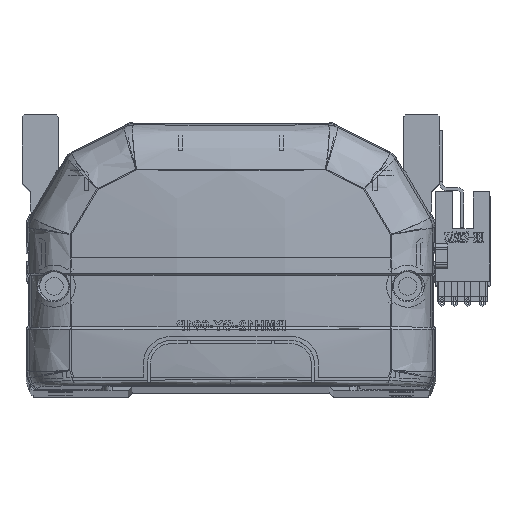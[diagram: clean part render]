
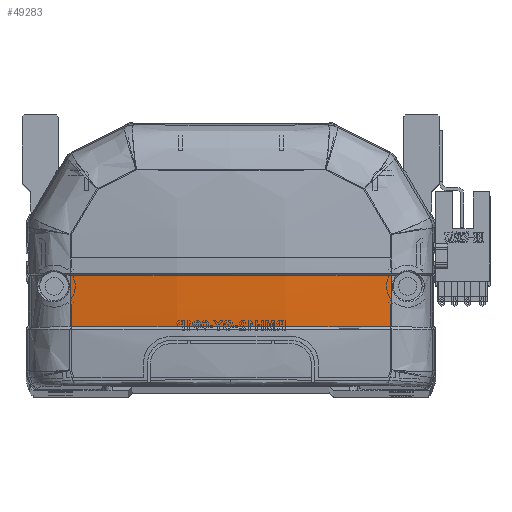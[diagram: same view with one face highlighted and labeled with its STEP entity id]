
A CAD part, top view. The second image highlights one B-rep face of the part: STEP entity #49283.
In plain terms, the highlighted free-form (B-spline) face has degree [3, 3] with [4, 4] control points.
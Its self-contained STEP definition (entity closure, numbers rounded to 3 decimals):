
#3570 = ORIENTED_EDGE ( 'NONE', *, *, #50751, .F. ) ;
#4159 = VERTEX_POINT ( 'NONE', #58372 ) ;
#4699 = CARTESIAN_POINT ( 'NONE',  ( -39.985, 15.83, -5.879 ) ) ;
#5207 = CARTESIAN_POINT ( 'NONE',  ( -13.598, 24.342, -10.47 ) ) ;
#5611 = VERTEX_POINT ( 'NONE', #25838 ) ;
#5679 = CARTESIAN_POINT ( 'NONE',  ( -39.973, 20.118, -6.142 ) ) ;
#7119 = ORIENTED_EDGE ( 'NONE', *, *, #57024, .F. ) ;
#7914 = EDGE_CURVE ( 'NONE', #58150, #5611, #53765, .T. ) ;
#8964 = CARTESIAN_POINT ( 'NONE',  ( -36.679, 15.83, -6.395 ) ) ;
#9720 = CARTESIAN_POINT ( 'NONE',  ( 40.461, 28.832, -6.296 ) ) ;
#11018 = CARTESIAN_POINT ( 'NONE',  ( -13.373, 28.707, -9.468 ) ) ;
#13789 = CARTESIAN_POINT ( 'NONE',  ( 39.985, 15.83, -5.879 ) ) ;
#14441 = CARTESIAN_POINT ( 'NONE',  ( 13.598, 15.499, -10.032 ) ) ;
#14844 = CARTESIAN_POINT ( 'NONE',  ( -13.598, 15.499, -10.032 ) ) ;
#15052 = CARTESIAN_POINT ( 'NONE',  ( 40.461, 20.111, -6.066 ) ) ;
#15451 = FACE_OUTER_BOUND ( 'NONE', #46275, .T. ) ;
#15937 = CARTESIAN_POINT ( 'NONE',  ( 26.749, 28.706, -8.432 ) ) ;
#18037 = CARTESIAN_POINT ( 'NONE',  ( -33.365, 15.83, -6.848 ) ) ;
#18742 = CARTESIAN_POINT ( 'NONE',  ( 39.973, 20.12, -6.142 ) ) ;
#19174 = CARTESIAN_POINT ( 'NONE',  ( 13.598, 28.769, -10.535 ) ) ;
#19784 = CARTESIAN_POINT ( 'NONE',  ( -40.461, 24.47, -6.231 ) ) ;
#20160 = CARTESIAN_POINT ( 'NONE',  ( 39.966, 24.413, -6.306 ) ) ;
#23913 = CARTESIAN_POINT ( 'NONE',  ( 39.963, 28.706, -6.372 ) ) ;
#23945 = CARTESIAN_POINT ( 'NONE',  ( -13.598, 19.918, -10.302 ) ) ;
#24003 = CARTESIAN_POINT ( 'NONE',  ( -39.963, 28.706, -6.372 ) ) ;
#24535 = CARTESIAN_POINT ( 'NONE',  ( -13.598, 28.769, -10.535 ) ) ;
#25225 = CARTESIAN_POINT ( 'NONE',  ( 39.963, 28.706, -6.372 ) ) ;
#25461 = ORIENTED_EDGE ( 'NONE', *, *, #35635, .T. ) ;
#25838 = CARTESIAN_POINT ( 'NONE',  ( 39.963, 28.706, -6.372 ) ) ;
#27280 = B_SPLINE_CURVE_WITH_KNOTS ( 'NONE', 3,
 ( #24003, #42825, #5679, #28890 ),
 .UNSPECIFIED., .F., .F.,
 ( 4, 4 ),
 ( 0., 1. ),
 .UNSPECIFIED. ) ;
#27310 = CARTESIAN_POINT ( 'NONE',  ( -13.384, 15.83, -8.724 ) ) ;
#28890 = CARTESIAN_POINT ( 'NONE',  ( -39.985, 15.83, -5.879 ) ) ;
#32022 = CARTESIAN_POINT ( 'NONE',  ( -6.692, 15.83, -8.984 ) ) ;
#32821 = CARTESIAN_POINT ( 'NONE',  ( -23.389, 15.83, -7.947 ) ) ;
#33572 =( BOUNDED_SURFACE ( )  B_SPLINE_SURFACE ( 3, 3, ( 
 ( #42555, #15052, #42980, #9720 ),
 ( #14441, #52054, #47286, #19174 ),
 ( #14844, #23945, #5207, #24535 ),
 ( #52667, #56779, #19784, #38083 ) ),
 .UNSPECIFIED., .F., .F., .T. ) 
 B_SPLINE_SURFACE_WITH_KNOTS ( ( 4, 4 ),
 ( 4, 4 ),
 ( 0., 1. ),
 ( 0., 1. ),
 .UNSPECIFIED. ) 
 GEOMETRIC_REPRESENTATION_ITEM ( )  RATIONAL_B_SPLINE_SURFACE ( (
 ( 1., 1., 1., 1.),
 ( 0.992, 0.992, 0.992, 0.992),
 ( 0.992, 0.992, 0.992, 0.992),
 ( 1., 1., 1., 1.) ) ) 
 REPRESENTATION_ITEM ( '' )  SURFACE ( )  );
#34662 = CARTESIAN_POINT ( 'NONE',  ( -26.748, 28.706, -8.432 ) ) ;
#35257 = CARTESIAN_POINT ( 'NONE',  ( -39.963, 28.706, -6.372 ) ) ;
#35635 = EDGE_CURVE ( 'NONE', #4159, #44861, #27280, .T. ) ;
#38083 = CARTESIAN_POINT ( 'NONE',  ( -40.461, 28.832, -6.296 ) ) ;
#39809 = CARTESIAN_POINT ( 'NONE',  ( 13.375, 28.707, -9.468 ) ) ;
#41643 = CARTESIAN_POINT ( 'NONE',  ( 13.38, 15.83, -8.984 ) ) ;
#42555 = CARTESIAN_POINT ( 'NONE',  ( 40.461, 15.757, -5.8 ) ) ;
#42825 = CARTESIAN_POINT ( 'NONE',  ( -39.966, 24.412, -6.306 ) ) ;
#42980 = CARTESIAN_POINT ( 'NONE',  ( 40.461, 24.47, -6.231 ) ) ;
#44132 = B_SPLINE_CURVE_WITH_KNOTS ( 'NONE', 3,
 ( #59328, #50086, #41643, #32022, #27310, #32821, #46340, #18037, #8964, #4699 ),
 .UNSPECIFIED., .F., .F.,
 ( 4, 2, 2, 2, 4 ),
 ( 0., 0.04, 0.06, 0.07, 0.08 ),
 .UNSPECIFIED. ) ;
#44861 = VERTEX_POINT ( 'NONE', #53610 ) ;
#45758 = B_SPLINE_CURVE_WITH_KNOTS ( 'NONE', 3,
 ( #35257, #34662, #11018, #39809, #15937, #25225 ),
 .UNSPECIFIED., .F., .F.,
 ( 4, 2, 4 ),
 ( 0., 0.5, 1. ),
 .UNSPECIFIED. ) ;
#46275 = EDGE_LOOP ( 'NONE', ( #51503, #7119, #25461, #3570 ) ) ;
#46340 = CARTESIAN_POINT ( 'NONE',  ( -26.721, 15.83, -7.624 ) ) ;
#47286 = CARTESIAN_POINT ( 'NONE',  ( 13.598, 24.342, -10.47 ) ) ;
#49283 = ADVANCED_FACE ( 'NONE', ( #15451 ), #33572, .F. ) ;
#50086 = CARTESIAN_POINT ( 'NONE',  ( 26.761, 15.83, -7.945 ) ) ;
#50179 = CARTESIAN_POINT ( 'NONE',  ( 39.985, 15.83, -5.879 ) ) ;
#50751 = EDGE_CURVE ( 'NONE', #58150, #44861, #44132, .T. ) ;
#51503 = ORIENTED_EDGE ( 'NONE', *, *, #7914, .T. ) ;
#52054 = CARTESIAN_POINT ( 'NONE',  ( 13.598, 19.918, -10.302 ) ) ;
#52667 = CARTESIAN_POINT ( 'NONE',  ( -40.461, 15.757, -5.8 ) ) ;
#53610 = CARTESIAN_POINT ( 'NONE',  ( -39.985, 15.83, -5.879 ) ) ;
#53765 = B_SPLINE_CURVE_WITH_KNOTS ( 'NONE', 3,
 ( #13789, #18742, #20160, #23913 ),
 .UNSPECIFIED., .F., .F.,
 ( 4, 4 ),
 ( 0., 1. ),
 .UNSPECIFIED. ) ;
#56779 = CARTESIAN_POINT ( 'NONE',  ( -40.461, 20.111, -6.066 ) ) ;
#57024 = EDGE_CURVE ( 'NONE', #4159, #5611, #45758, .T. ) ;
#58150 = VERTEX_POINT ( 'NONE', #50179 ) ;
#58372 = CARTESIAN_POINT ( 'NONE',  ( -39.963, 28.706, -6.372 ) ) ;
#59328 = CARTESIAN_POINT ( 'NONE',  ( 39.985, 15.83, -5.879 ) ) ;
